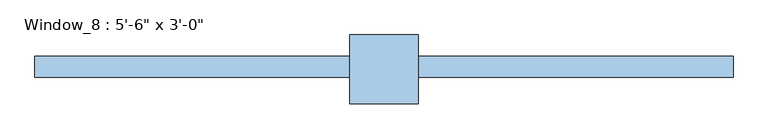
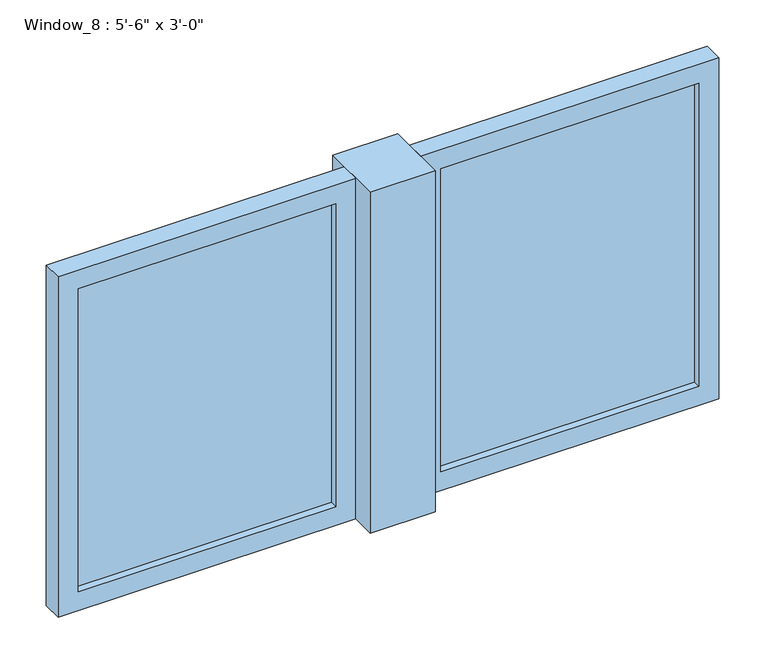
"""IFC4 building model written with IfcOpenShell, lengths in millimetres: window geometry."""

import ifcopenshell
import ifcopenshell.guid

model = None  # the IFC model being written
_history = None  # IfcOwnerHistory: only IFC2X3 demands one
_inside = {}  # id of a spatial element -> (the spatial element, [elements in it])
_under = {}  # id of a project, library or spatial element -> (it, [spatial elements below it])
_declared = {}  # id of a project -> (the project, [libraries it declares])
_typed = {}  # id of a type object -> (the type object, [elements of that type])
_made_of = {}  # id of a material, layer set ... -> (it, [elements and type objects made of it])


def new_model(schema):
    """Start an empty IFC model of exactly this schema.

    Asked for "IFC4X3", IfcOpenShell would pick the latest addendum, in which some entities
    have other attributes; the version numbers below select the first issue.
    IFC2X3 requires an IfcOwnerHistory on every rooted entity: one is made here for all.
    """
    global model, _history
    if schema == "IFC4X3":
        model = ifcopenshell.file(schema_version=(4, 3, 0, 0))
    else:
        model = ifcopenshell.file(schema=schema)
    _inside.clear()
    _under.clear()
    _declared.clear()
    _typed.clear()
    _made_of.clear()
    _history = None
    if model.schema == "IFC2X3":
        org = make("IfcOrganization", Name="unknown")
        user = make(
            "IfcPersonAndOrganization",
            ThePerson=make("IfcPerson", FamilyName="unknown"),
            TheOrganization=org,
        )
        app = make(
            "IfcApplication",
            ApplicationDeveloper=org,
            Version="unknown",
            ApplicationFullName="unknown",
            ApplicationIdentifier="unknown",
        )
        _history = make(
            "IfcOwnerHistory",
            OwningUser=user,
            OwningApplication=app,
            ChangeAction="ADDED",
            CreationDate=0,
        )
    return model


def make(cls, **values):
    """One entity of the class cls with the attributes given. An attribute that is None is left unset."""
    return model.create_entity(
        cls, **{name: value for name, value in values.items() if value is not None}
    )


def rooted(cls, **values):
    """An entity with a GlobalId (a new one), such as an element, a storey or a relation."""
    return make(cls, GlobalId=ifcopenshell.guid.new(), OwnerHistory=_history, **values)


def si_unit(unit_type, name, prefix=None):
    """IfcSIUnit, for example si_unit("LENGTHUNIT", "METRE", prefix="MILLI")."""
    return make("IfcSIUnit", UnitType=unit_type, Prefix=prefix, Name=name)


def assignment(units):
    """IfcUnitAssignment: the units of a project."""
    return None if units is None else make("IfcUnitAssignment", Units=units)


def point(xyz):
    """IfcCartesianPoint."""
    return None if xyz is None else make("IfcCartesianPoint", Coordinates=xyz)


def direction(xyz):
    """IfcDirection."""
    return None if xyz is None else make("IfcDirection", DirectionRatios=xyz)


def frame(location, z_axis=None, x_axis=None):
    """IfcAxis2Placement3D, a coordinate frame: its origin and axes. An axis left out is left unset."""
    return make(
        "IfcAxis2Placement3D",
        Location=point(location),
        Axis=direction(z_axis),
        RefDirection=direction(x_axis),
    )


def origin():
    """The frame at (0, 0, 0) with its axes left unset."""
    return frame((0.0, 0.0, 0.0))


def place(relative_to, where):
    """IfcLocalPlacement: puts the frame where relative to a parent placement (None: the world)."""
    return make(
        "IfcLocalPlacement", PlacementRelTo=relative_to, RelativePlacement=where
    )


def context(
    kind, dimensions, precision=None, world=None, true_north=None, identifier=None
):
    """IfcGeometricRepresentationContext, for example the 3D "Model" context."""
    return make(
        "IfcGeometricRepresentationContext",
        ContextIdentifier=identifier,
        ContextType=kind,
        CoordinateSpaceDimension=dimensions,
        Precision=precision,
        WorldCoordinateSystem=world,
        TrueNorth=true_north,
    )


def project(units=None, contexts=None):
    """IfcProject with its units and contexts."""
    return rooted(
        "IfcProject",
        Name="project",
        RepresentationContexts=contexts,
        UnitsInContext=assignment(units),
    )


def spatial(cls, under=None, at=None, **own):
    """A site, building, storey or space (cls), placed at a placement, below another one or the project."""
    s = rooted(cls, ObjectPlacement=at, **own)
    if under is not None:
        _under.setdefault(under.id(), (under, []))[1].append(s)
    return s


def polyline(points):
    """IfcPolyline through the points."""
    return make("IfcPolyline", Points=[point(p) for p in points])


def outline(outer, holes=None, kind="AREA"):
    """IfcArbitraryClosedProfileDef: a profile drawn as a closed curve; with holes, ...WithVoids."""
    if holes is None:
        return make("IfcArbitraryClosedProfileDef", ProfileType=kind, OuterCurve=outer)
    return make(
        "IfcArbitraryProfileDefWithVoids",
        ProfileType=kind,
        OuterCurve=outer,
        InnerCurves=holes,
    )


def extrude(swept, where, along, depth):
    """IfcExtrudedAreaSolid: the profile swept, set in the frame where, extruded along a direction by depth."""
    return make(
        "IfcExtrudedAreaSolid",
        SweptArea=swept,
        Position=where,
        ExtrudedDirection=direction(along),
        Depth=depth,
    )


def shape(context_of_items, identifier, shape_type, items):
    """IfcShapeRepresentation: the items that make up one representation, for example the "Body"."""
    return make(
        "IfcShapeRepresentation",
        ContextOfItems=context_of_items,
        RepresentationIdentifier=identifier,
        RepresentationType=shape_type,
        Items=items,
    )


def source(mapping_origin, context_of_items, identifier, shape_type, items):
    """IfcRepresentationMap: a shape defined once, which mapped items show again and again."""
    return make(
        "IfcRepresentationMap",
        MappingOrigin=mapping_origin,
        MappedRepresentation=shape(context_of_items, identifier, shape_type, items),
    )


def transform(
    local_origin,
    x_axis=None,
    y_axis=None,
    z_axis=None,
    scale=None,
    scale2=None,
    scale3=None,
    uniform=True,
):
    """IfcCartesianTransformationOperator3D, or its non-uniform kind. x_axis, y_axis, z_axis: its Axis1, 2, 3."""
    if uniform:
        return make(
            "IfcCartesianTransformationOperator3D",
            Axis1=direction(x_axis),
            Axis2=direction(y_axis),
            LocalOrigin=point(local_origin),
            Scale=scale,
            Axis3=direction(z_axis),
        )
    return make(
        "IfcCartesianTransformationOperator3DnonUniform",
        Axis1=direction(x_axis),
        Axis2=direction(y_axis),
        LocalOrigin=point(local_origin),
        Scale=scale,
        Axis3=direction(z_axis),
        Scale2=scale2,
        Scale3=scale3,
    )


def mapped(mapping_source, mapping_target):
    """IfcMappedItem: shows the shape of a source again, moved by a transform."""
    return make(
        "IfcMappedItem", MappingSource=mapping_source, MappingTarget=mapping_target
    )


def made_of(thing, what):
    """Note that an element or type object is made of a material, layer set ...; save() writes the relation."""
    if what is not None:
        _made_of.setdefault(what.id(), (what, []))[1].append(thing)
    return thing


def element(
    cls,
    number,
    at=None,
    inside=None,
    cuts=None,
    type_object=None,
    material=None,
    context=None,
    identifier="Body",
    shape_type=None,
    held_by="IfcProductDefinitionShape",
    body=None,
    shapes=None,
    **own,
):
    """One element of the class cls, such as IfcWall. Its Tag is "e" and its number.

    at: its placement. inside: the storey or other place that contains it. cuts: it is an
    opening in that element (IfcRelVoidsElement). A single representation is given by context,
    identifier, shape_type and body (its items); several are given by shapes. held_by: the class
    of the entity that holds the representations. save() writes the other relations.
    """
    e = rooted(cls, Tag="e%d" % number, ObjectPlacement=at, **own)
    if body is not None:
        shapes = [shape(context, identifier, shape_type, body)]
    if shapes is not None:
        e.Representation = make(held_by, Representations=shapes)
    if inside is not None:
        _inside.setdefault(inside.id(), (inside, []))[1].append(e)
    if cuts is not None:
        rooted(
            "IfcRelVoidsElement", RelatingBuildingElement=cuts, RelatedOpeningElement=e
        )
    if type_object is not None:
        _typed.setdefault(type_object.id(), (type_object, []))[1].append(e)
    return made_of(e, material)


def aggregate(whole, parts):
    """IfcRelAggregates: a whole, such as a stair, and the parts it consists of."""
    return rooted("IfcRelAggregates", RelatingObject=whole, RelatedObjects=parts)


def save(model, path):
    """Write the relations noted so far, then the file.

    IfcRelAggregates (storeys below a building ...), IfcRelContainedInSpatialStructure (elements
    in a storey), IfcRelDefinesByType, IfcRelAssociatesMaterial and IfcRelDeclares: one each for
    every whole, place, type object, material and project.
    """
    for whole, parts in _under.values():
        aggregate(whole, parts)
    for where, things in _inside.values():
        rooted(
            "IfcRelContainedInSpatialStructure",
            RelatedElements=things,
            RelatingStructure=where,
        )
    for kind, things in _typed.values():
        rooted("IfcRelDefinesByType", RelatedObjects=things, RelatingType=kind)
    for what, things in _made_of.values():
        rooted("IfcRelAssociatesMaterial", RelatedObjects=things, RelatingMaterial=what)
    for by, libraries in _declared.values():
        rooted("IfcRelDeclares", RelatingContext=by, RelatedDefinitions=libraries)
    model.write(path)


def window_83dc67e6(model_context):
    return source(origin(), model_context, "Body", "SweptSolid", [
        extrude(outline(polyline([(-69.85, -82.55), (-69.85, 82.55), (95.25, 82.55), (95.25, -82.55), (-69.85, -82.55)])), frame((0.0, 0.0, 838.2), z_axis=(0.0, 0.0, 1.0), x_axis=(1.0, 0.0, 0.0)), (0.0, 0.0, 1.0), 914.4),
        extrude(outline(polyline([(800.1, 0.0), (146.05, 0.0), (146.05, 12.7), (800.1, 12.7), (800.1, 0.0)])), frame((0.0, 0.0, 889.0), z_axis=(0.0, 0.0, 1.0), x_axis=(1.0, 0.0, 0.0)), (0.0, 0.0, 1.0), 812.8),
        extrude(outline(polyline([(-120.65, 0.0), (-774.7, 0.0), (-774.7, 12.7), (-120.65, 12.7), (-120.65, 0.0)])), frame((0.0, 0.0, 889.0), z_axis=(0.0, 0.0, 1.0), x_axis=(1.0, 0.0, 0.0)), (0.0, 0.0, 1.0), 812.8),
        extrude(outline(polyline([(838.2, -825.5), (838.2, -69.85), (1752.6, -69.85), (1752.6, -825.5), (838.2, -825.5)]), holes=[polyline([(889.0, -774.7), (1701.8, -774.7), (1701.8, -120.65), (889.0, -120.65), (889.0, -774.7)])]), frame((0.0, -19.05, 0.0), z_axis=(0.0, 1.0, 0.0), x_axis=(0.0, 0.0, 1.0)), (0.0, 0.0, 1.0), 50.8),
        extrude(outline(polyline([(1752.6, 95.25), (838.2, 95.25), (838.2, 850.9), (1752.6, 850.9), (1752.6, 95.25)]), holes=[polyline([(1701.8, 146.05), (1701.8, 800.1), (889.0, 800.1), (889.0, 146.05), (1701.8, 146.05)])]), frame((0.0, -19.05, 0.0), z_axis=(0.0, 1.0, 0.0), x_axis=(0.0, 0.0, 1.0)), (0.0, 0.0, 1.0), 50.8),
    ])


if __name__ == "__main__":
    model = new_model("IFC4")
    model_context = context("Model", 3, world=origin())
    ifc_project = project(units=[si_unit("LENGTHUNIT", "METRE", prefix="MILLI")], contexts=[model_context])
    site = spatial("IfcSite", under=ifc_project)
    building = spatial("IfcBuilding", under=site)
    placement = place(None, origin())
    window_shape = window_83dc67e6(model_context)
    element("IfcWindow", 1, ObjectType="Window_8 : 5'-6\" x 3'-0\"", at=placement, inside=building, context=model_context, shape_type="MappedRepresentation", body=[
        mapped(window_shape, transform((0.0, 0.0, 0.0), x_axis=(1.0, 0.0, 0.0), y_axis=(0.0, 1.0, 0.0), z_axis=(0.0, 0.0, 1.0))),
    ])
    save(model, "model.ifc")
